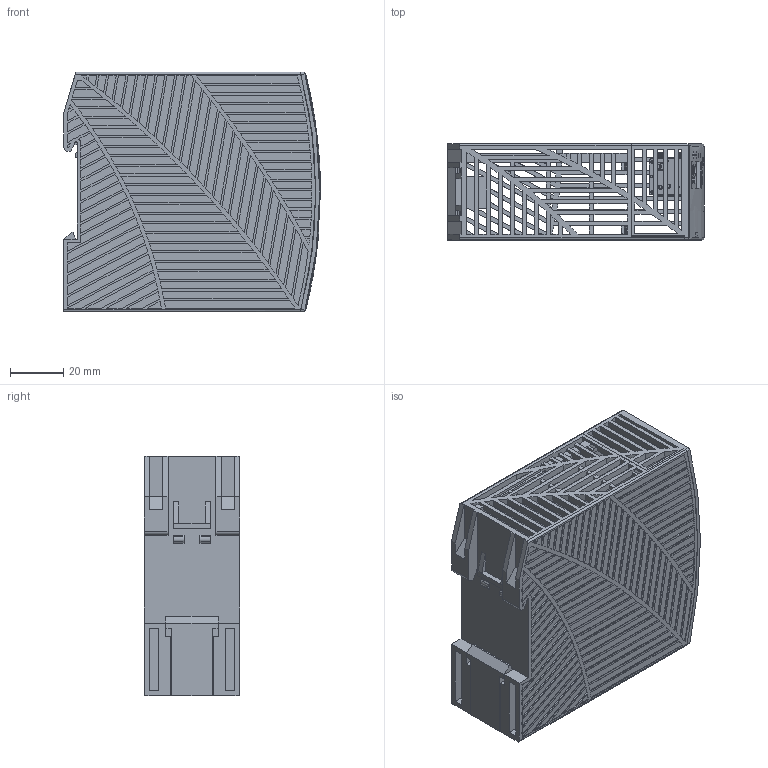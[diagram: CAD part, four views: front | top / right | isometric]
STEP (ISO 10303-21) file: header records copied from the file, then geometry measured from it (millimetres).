
FILE_DESCRIPTION(/* description */ (''),/* implementation_level */ '2;1');
FILE_NAME(/* name */ 'L:\Technische-Dokumentation\Daten von KO\Internet\PIM60.121 (AN-446.02)\md2_pim60_121.stp',/* time_stamp */ '2020-01-28T13:55:44+01:00',/* author */ ('rahns'),/* organization */ (''),/* preprocessor_version */ 'ST-DEVELOPER v17',/* originating_system */ 'Autodesk Inventor 2018',/* authorisation */ '');
FILE_SCHEMA (('AUTOMOTIVE_DESIGN { 1 0 10303 214 3 1 1 }'));
Products named in the file (9): 446.00; HOUSING BODY 449.00; HOUSING COVER 449.00; SLIDER 449.00; FRONTFOIL 446.00; MKT_LED2 GN; MKT_POTI; MKT_SPT25-PI_4; MKT_SPT_2,5-2-H-
Assembly tree (8 placements, depth 2):
  446.00
    HOUSING BODY 449.00
    HOUSING COVER 449.00
    SLIDER 449.00
    FRONTFOIL 446.00
    MKT_LED2 GN
    MKT_POTI
    MKT_SPT25-PI_4
    MKT_SPT_2,5-2-H-
Bounding box: 96.46 x 36 x 90 mm (x, y, z)
Volume: 49502.6 mm3; surface area: 71165.2 mm2
Topology: 8 solids, 8 shells, 2044 faces, 5561 edges, 3710 vertices
Faces by surface type: plane 1470, cylinder 363, bspline 172, cone 38, sphere 1
Full cylindrical faces by diameter (mm): 0.457 x1, 0.5 x3, 1 x12, 1.1 x12, 1.5 x6, 3.8 x1, 4 x6
Entity records: 73081 total; most frequent: CARTESIAN_POINT 20328, ORIENTED_EDGE 11122, DIRECTION 10050, EDGE_CURVE 5561, LINE 4084, VECTOR 4084, VERTEX_POINT 3710, AXIS2_PLACEMENT_3D 2983
